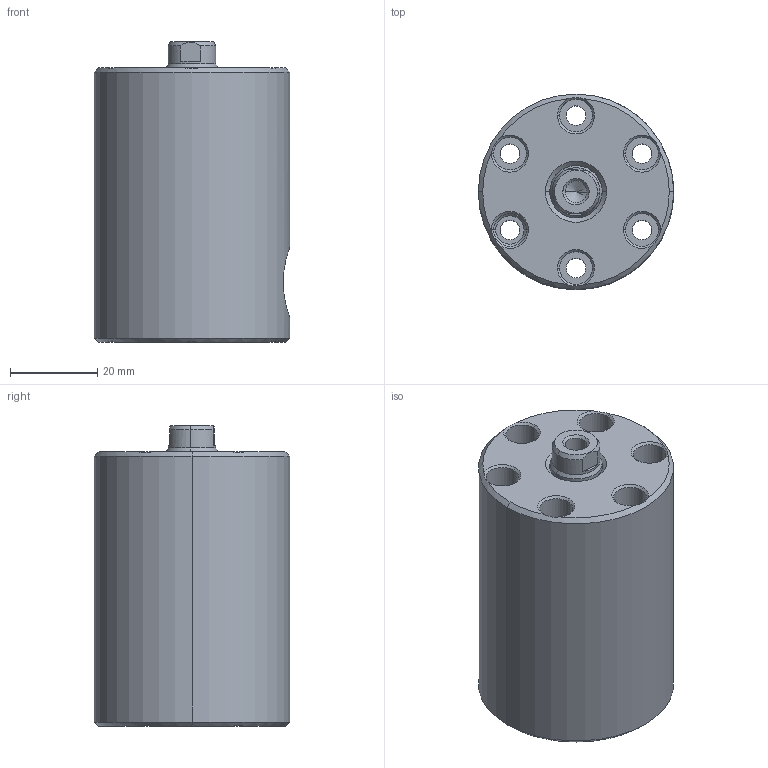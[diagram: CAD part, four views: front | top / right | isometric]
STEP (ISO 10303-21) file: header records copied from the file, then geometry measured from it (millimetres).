
FILE_DESCRIPTION (( 'STEP AP214' ), '1' );
FILE_NAME ('CO2C-4525.STEP', '2020-07-08T06:32:14', ( '' ), ( '' ), 'SwSTEP 2.0', 'SolidWorks 2019', '' );
FILE_SCHEMA (( 'AUTOMOTIVE_DESIGN' ));
Length unit declared in the file: millimetre
Products named in the file (3): CO2C-4525; CO2C-4525-PISTON; CO2C-4525-BODY
Assembly tree (2 placements, depth 2):
  CO2C-4525
    CO2C-4525-BODY
    CO2C-4525-PISTON
Bounding box: 44.8 x 44.8 x 69 mm (x, y, z)
Volume: 87422.4 mm3; surface area: 22761.2 mm2
Topology: 2 solids, 2 shells, 127 faces, 309 edges, 185 vertices
Faces by surface type: cylinder 54, cone 50, plane 23
Entity records: 4153 total; most frequent: CARTESIAN_POINT 906, DIRECTION 723, ORIENTED_EDGE 606, AXIS2_PLACEMENT_3D 306, EDGE_CURVE 303, VERTEX_POINT 185, CIRCLE 174, EDGE_LOOP 144
